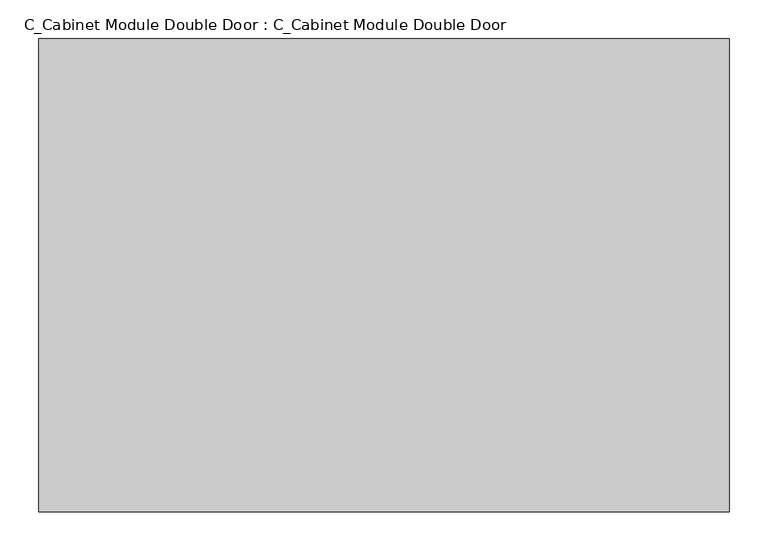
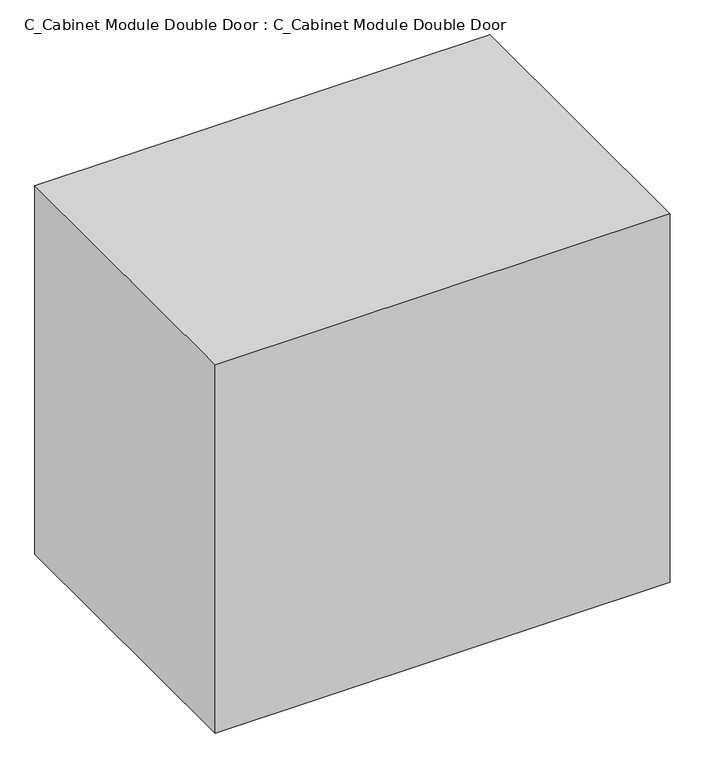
"""IFC4 building model written with IfcOpenShell, lengths in millimetres: furniture geometry, C_Cabinet Module Double Door : C_Cabinet Module Double Door."""

from ifc_helpers import new_model, si_unit, origin, origin_with_axes, place, context, project, spatial, polyline, outline, extrude, source, transform, mapped, element, save


def c_cabinet_module_double_door_c_cabinet_module_double_door_c146abdf(model_context):
    return source(origin(), model_context, "Body", "SweptSolid", [
        extrude(outline(polyline([(444.5, 0.0), (-444.5, 0.0), (-444.5, 609.6), (444.5, 609.6), (444.5, 0.0)])), origin_with_axes(), (0.0, 0.0, 1.0), 760.4125),
    ])


if __name__ == "__main__":
    model = new_model("IFC4")
    model_context = context("Model", 3, world=origin())
    ifc_project = project(units=[si_unit("LENGTHUNIT", "METRE", prefix="MILLI")], contexts=[model_context])
    site = spatial("IfcSite", under=ifc_project)
    building = spatial("IfcBuilding", under=site)
    placement = place(None, origin())
    c_cabinet_module_double_door_c_cabinet_module_double_door_shape = c_cabinet_module_double_door_c_cabinet_module_double_door_c146abdf(model_context)
    element("IfcFurniture", 1, ObjectType="C_Cabinet Module Double Door : C_Cabinet Module Double Door", at=placement, inside=building, context=model_context, shape_type="MappedRepresentation", body=[
        mapped(c_cabinet_module_double_door_c_cabinet_module_double_door_shape, transform((0.0, 0.0, 0.0), x_axis=(1.0, 0.0, 0.0), y_axis=(0.0, 1.0, 0.0), z_axis=(0.0, 0.0, 1.0))),
    ])
    save(model, "model.ifc")
